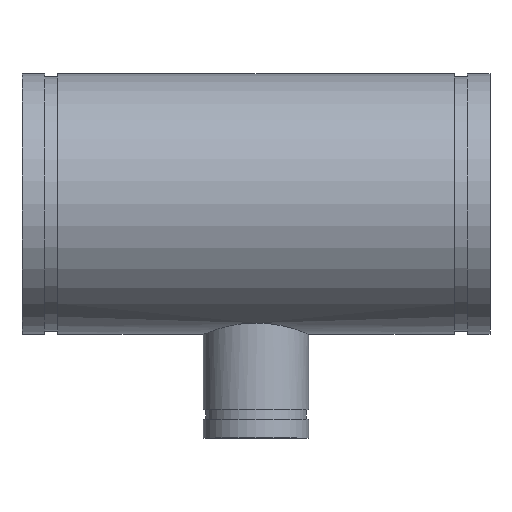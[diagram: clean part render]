
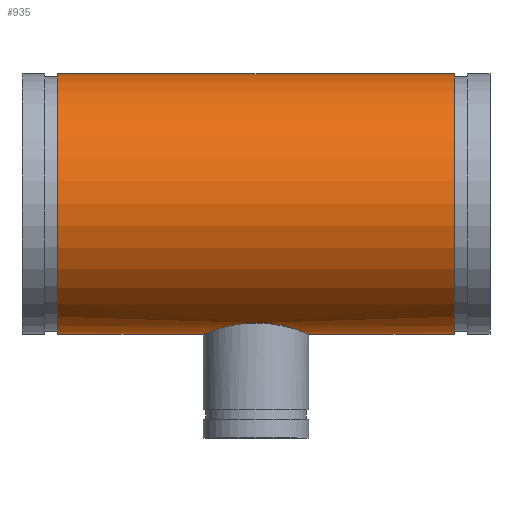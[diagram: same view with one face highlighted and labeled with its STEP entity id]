
A CAD part, top view. The second image highlights one B-rep face of the part: STEP entity #935.
In plain terms, the highlighted cylindrical face has radius 109.537 mm (diameter 219.075 mm), a full revolution.
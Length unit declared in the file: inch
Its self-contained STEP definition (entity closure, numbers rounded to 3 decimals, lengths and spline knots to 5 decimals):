
#61=FACE_BOUND('',#222,.T.);
#67=B_SPLINE_CURVE_WITH_KNOTS('',3,(#1807,#1808,#1809,#1810,#1811,#1812,
#1813,#1814,#1815,#1816,#1817,#1818,#1819,#1820,#1821,#1822,#1823,#1824),
 .UNSPECIFIED.,.F.,.F.,(4,2,2,2,2,2,2,2,4),(0.,0.84837,1.69674,
2.54511,3.39349,4.24094,5.0884,5.93586,
6.78332),.UNSPECIFIED.);
#68=B_SPLINE_CURVE_WITH_KNOTS('',3,(#1825,#1826,#1827,#1828,#1829,#1830,
#1831,#1832,#1833,#1834,#1835,#1836,#1837,#1838,#1839,#1840,#1841,#1842,
#1843,#1844,#1845,#1846,#1847,#1848,#1849,#1850,#1851,#1852,#1853,#1854,
#1855,#1856,#1857,#1858,#1859,#1860,#1861,#1862,#1863,#1864,#1865,#1866,
#1867,#1868,#1869,#1870,#1871,#1872,#1873,#1874),.UNSPECIFIED.,.F.,.F.,
(4,2,2,2,2,2,2,2,2,2,2,2,2,2,2,2,2,2,2,2,2,2,2,2,4),(6.78332,7.63077,
8.47823,9.32569,10.17315,11.02152,11.86989,
12.71826,13.56663,14.415,15.26337,16.11175,
16.96012,17.80757,18.65503,19.50249,20.34995,
21.1974,22.04486,22.89232,23.73978,24.58815,
25.43652,26.28489,27.13326),.UNSPECIFIED.);
#81=CYLINDRICAL_SURFACE('',#1104,4.3125);
#103=LINE('',#1804,#125);
#125=VECTOR('',#1432,4.3125);
#171=FACE_OUTER_BOUND('',#221,.T.);
#221=EDGE_LOOP('',(#814,#815,#816,#817));
#222=EDGE_LOOP('',(#818,#819));
#326=CIRCLE('',#1087,4.3125);
#337=CIRCLE('',#1103,4.3125);
#424=VERTEX_POINT('',#1772);
#435=VERTEX_POINT('',#1801);
#436=VERTEX_POINT('',#1805);
#437=VERTEX_POINT('',#1806);
#552=EDGE_CURVE('',#424,#424,#326,.T.);
#565=EDGE_CURVE('',#435,#435,#337,.T.);
#566=EDGE_CURVE('',#435,#424,#103,.T.);
#567=EDGE_CURVE('',#436,#437,#67,.T.);
#568=EDGE_CURVE('',#437,#436,#68,.T.);
#814=ORIENTED_EDGE('',*,*,#565,.T.);
#815=ORIENTED_EDGE('',*,*,#566,.T.);
#816=ORIENTED_EDGE('',*,*,#552,.T.);
#817=ORIENTED_EDGE('',*,*,#566,.F.);
#818=ORIENTED_EDGE('',*,*,#567,.T.);
#819=ORIENTED_EDGE('',*,*,#568,.T.);
#935=ADVANCED_FACE('',(#171,#61),#81,.T.);
#1087=AXIS2_PLACEMENT_3D('',#1773,#1394,#1395);
#1103=AXIS2_PLACEMENT_3D('',#1802,#1428,#1429);
#1104=AXIS2_PLACEMENT_3D('',#1803,#1430,#1431);
#1394=DIRECTION('center_axis',(-1.,0.,0.));
#1395=DIRECTION('ref_axis',(0.,-1.,0.));
#1428=DIRECTION('center_axis',(1.,0.,0.));
#1429=DIRECTION('ref_axis',(0.,-1.,0.));
#1430=DIRECTION('center_axis',(-1.,0.,0.));
#1431=DIRECTION('ref_axis',(0.,-1.,0.));
#1432=DIRECTION('',(1.,0.,0.));
#1772=CARTESIAN_POINT('',(6.562,4.3125,0.));
#1773=CARTESIAN_POINT('Origin',(6.562,0.,0.));
#1801=CARTESIAN_POINT('',(-6.562,4.3125,0.));
#1802=CARTESIAN_POINT('Origin',(-6.562,0.,0.));
#1803=CARTESIAN_POINT('Origin',(7.75,0.,0.));
#1804=CARTESIAN_POINT('',(7.75,4.3125,0.));
#1805=CARTESIAN_POINT('',(0.,-3.94147,-1.75));
#1806=CARTESIAN_POINT('',(-1.75,-4.3125,0.));
#1807=CARTESIAN_POINT('Ctrl Pts',(0.,-3.94147,
-1.75));
#1808=CARTESIAN_POINT('Ctrl Pts',(-0.11133,-3.94147,
-1.75));
#1809=CARTESIAN_POINT('Ctrl Pts',(-0.22599,-3.94632,
-1.73921));
#1810=CARTESIAN_POINT('Ctrl Pts',(-0.45317,-3.96582,
-1.69427));
#1811=CARTESIAN_POINT('Ctrl Pts',(-0.56569,-3.98044,
-1.66014));
#1812=CARTESIAN_POINT('Ctrl Pts',(-0.78081,-4.01666,-1.57048));
#1813=CARTESIAN_POINT('Ctrl Pts',(-0.8836,-4.03824,
-1.51488));
#1814=CARTESIAN_POINT('Ctrl Pts',(-1.0734,-4.08398,-1.38687));
#1815=CARTESIAN_POINT('Ctrl Pts',(-1.16042,-4.10808,-1.31445));
#1816=CARTESIAN_POINT('Ctrl Pts',(-1.31437,-4.1542,-1.1605));
#1817=CARTESIAN_POINT('Ctrl Pts',(-1.38678,-4.17788,-1.07352));
#1818=CARTESIAN_POINT('Ctrl Pts',(-1.51482,-4.22211,-0.8837));
#1819=CARTESIAN_POINT('Ctrl Pts',(-1.57047,-4.24262,-0.78085));
#1820=CARTESIAN_POINT('Ctrl Pts',(-1.66017,-4.27664,-0.56561));
#1821=CARTESIAN_POINT('Ctrl Pts',(-1.69431,-4.29015,-0.45303));
#1822=CARTESIAN_POINT('Ctrl Pts',(-1.73923,-4.30809,-0.22583));
#1823=CARTESIAN_POINT('Ctrl Pts',(-1.75,-4.3125,-0.11121));
#1824=CARTESIAN_POINT('Ctrl Pts',(-1.75,-4.3125,0.));
#1825=CARTESIAN_POINT('Ctrl Pts',(-1.75,-4.3125,0.));
#1826=CARTESIAN_POINT('Ctrl Pts',(-1.75,-4.3125,0.11121));
#1827=CARTESIAN_POINT('Ctrl Pts',(-1.73923,-4.30809,0.22583));
#1828=CARTESIAN_POINT('Ctrl Pts',(-1.69431,-4.29015,0.45303));
#1829=CARTESIAN_POINT('Ctrl Pts',(-1.66017,-4.27664,0.56561));
#1830=CARTESIAN_POINT('Ctrl Pts',(-1.57047,-4.24262,0.78085));
#1831=CARTESIAN_POINT('Ctrl Pts',(-1.51482,-4.22211,0.8837));
#1832=CARTESIAN_POINT('Ctrl Pts',(-1.38678,-4.17788,1.07352));
#1833=CARTESIAN_POINT('Ctrl Pts',(-1.31437,-4.1542,1.1605));
#1834=CARTESIAN_POINT('Ctrl Pts',(-1.16042,-4.10808,1.31445));
#1835=CARTESIAN_POINT('Ctrl Pts',(-1.0734,-4.08398,1.38687));
#1836=CARTESIAN_POINT('Ctrl Pts',(-0.8836,-4.03824,
1.51488));
#1837=CARTESIAN_POINT('Ctrl Pts',(-0.78081,-4.01666,1.57048));
#1838=CARTESIAN_POINT('Ctrl Pts',(-0.56569,-3.98044,
1.66014));
#1839=CARTESIAN_POINT('Ctrl Pts',(-0.45317,-3.96582,
1.69427));
#1840=CARTESIAN_POINT('Ctrl Pts',(-0.22599,-3.94632,
1.73921));
#1841=CARTESIAN_POINT('Ctrl Pts',(-0.11133,-3.94147,
1.75));
#1842=CARTESIAN_POINT('Ctrl Pts',(0.11133,-3.94147,1.75));
#1843=CARTESIAN_POINT('Ctrl Pts',(0.22599,-3.94632,1.73921));
#1844=CARTESIAN_POINT('Ctrl Pts',(0.45317,-3.96582,1.69427));
#1845=CARTESIAN_POINT('Ctrl Pts',(0.56569,-3.98044,1.66014));
#1846=CARTESIAN_POINT('Ctrl Pts',(0.78081,-4.01666,1.57048));
#1847=CARTESIAN_POINT('Ctrl Pts',(0.8836,-4.03824,1.51488));
#1848=CARTESIAN_POINT('Ctrl Pts',(1.0734,-4.08398,1.38687));
#1849=CARTESIAN_POINT('Ctrl Pts',(1.16042,-4.10808,1.31445));
#1850=CARTESIAN_POINT('Ctrl Pts',(1.31437,-4.1542,1.1605));
#1851=CARTESIAN_POINT('Ctrl Pts',(1.38678,-4.17788,1.07352));
#1852=CARTESIAN_POINT('Ctrl Pts',(1.51482,-4.22211,0.8837));
#1853=CARTESIAN_POINT('Ctrl Pts',(1.57047,-4.24262,0.78085));
#1854=CARTESIAN_POINT('Ctrl Pts',(1.66017,-4.27664,0.56561));
#1855=CARTESIAN_POINT('Ctrl Pts',(1.69431,-4.29015,0.45303));
#1856=CARTESIAN_POINT('Ctrl Pts',(1.73923,-4.30809,0.22583));
#1857=CARTESIAN_POINT('Ctrl Pts',(1.75,-4.3125,0.11121));
#1858=CARTESIAN_POINT('Ctrl Pts',(1.75,-4.3125,-0.11121));
#1859=CARTESIAN_POINT('Ctrl Pts',(1.73923,-4.30809,-0.22583));
#1860=CARTESIAN_POINT('Ctrl Pts',(1.69431,-4.29015,-0.45303));
#1861=CARTESIAN_POINT('Ctrl Pts',(1.66017,-4.27664,-0.56561));
#1862=CARTESIAN_POINT('Ctrl Pts',(1.57047,-4.24262,-0.78085));
#1863=CARTESIAN_POINT('Ctrl Pts',(1.51482,-4.22211,-0.8837));
#1864=CARTESIAN_POINT('Ctrl Pts',(1.38678,-4.17788,-1.07352));
#1865=CARTESIAN_POINT('Ctrl Pts',(1.31437,-4.1542,-1.1605));
#1866=CARTESIAN_POINT('Ctrl Pts',(1.16042,-4.10808,-1.31445));
#1867=CARTESIAN_POINT('Ctrl Pts',(1.0734,-4.08398,-1.38687));
#1868=CARTESIAN_POINT('Ctrl Pts',(0.8836,-4.03824,-1.51488));
#1869=CARTESIAN_POINT('Ctrl Pts',(0.78081,-4.01666,-1.57048));
#1870=CARTESIAN_POINT('Ctrl Pts',(0.56569,-3.98044,-1.66014));
#1871=CARTESIAN_POINT('Ctrl Pts',(0.45317,-3.96582,-1.69427));
#1872=CARTESIAN_POINT('Ctrl Pts',(0.22599,-3.94632,-1.73921));
#1873=CARTESIAN_POINT('Ctrl Pts',(0.11133,-3.94147,-1.75));
#1874=CARTESIAN_POINT('Ctrl Pts',(0.,-3.94147,-1.75));
